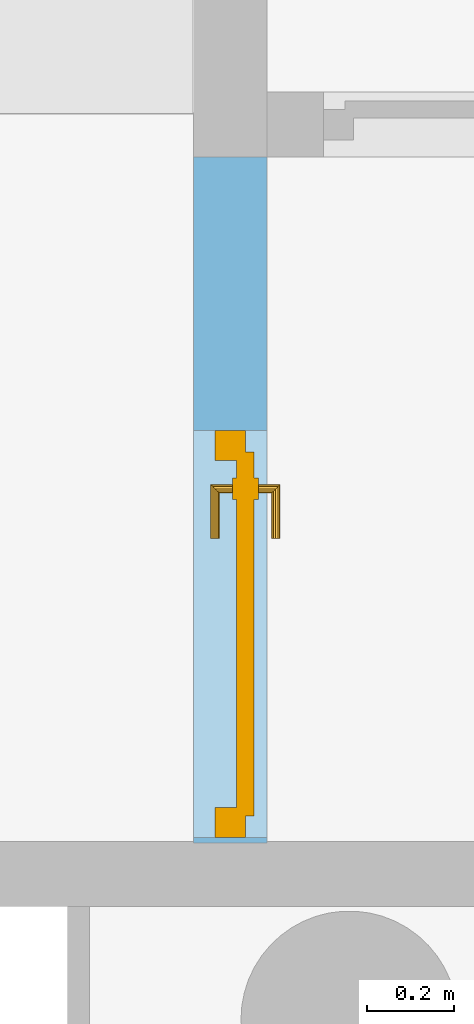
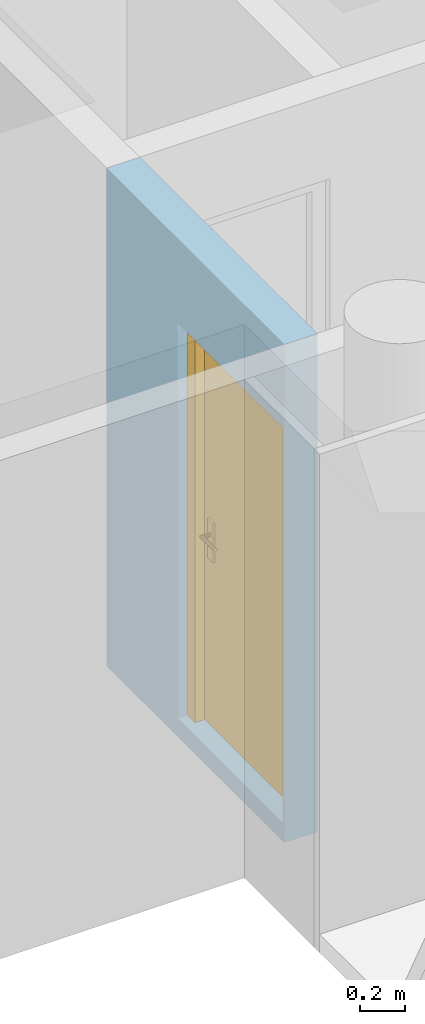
"""IFC4 building model written with IfcOpenShell, lengths in metres."""

from ifc_helpers import new_model, entity, si_unit, converted_unit, derived_unit, frame, frame_2d, origin, origin_with_axes, place, context, subcontext, project, spatial, polyline, rectangle, outline, extrude, faceted_brep, source, transform, mapped, material, layer, layer_set, layer_usage, element, fill, save


model = new_model("IFC4")

# Units and contexts
model_context = context("Model", 3, precision=1e-05, world=origin())
body_context = subcontext(model_context, "Body", "Model", "MODEL_VIEW")
ifc_project = project(units=[si_unit("LENGTHUNIT", "METRE"), si_unit("AREAUNIT", "SQUARE_METRE"), si_unit("VOLUMEUNIT", "CUBIC_METRE"), si_unit("MASSUNIT", "GRAM", prefix="KILO"), converted_unit("PLANEANGLEUNIT", "DEGREE", entity("IfcPlaneAngleMeasure", 0.0174532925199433), si_unit("PLANEANGLEUNIT", "RADIAN"), dimensions=[0, 0, 0, 0, 0, 0, 0]), derived_unit("THERMALTRANSMITTANCEUNIT", [(si_unit("POWERUNIT", "WATT"), 1), (si_unit("THERMODYNAMICTEMPERATUREUNIT", "KELVIN"), -1), (si_unit("LENGTHUNIT", "METRE"), -2)]), derived_unit("VOLUMETRICFLOWRATEUNIT", [(si_unit("LENGTHUNIT", "METRE"), 3), (converted_unit("TIMEUNIT", "hour", entity("IfcTimeMeasure", 3600.0), si_unit("TIMEUNIT", "SECOND"), dimensions=[0, 0, 1, 0, 0, 0, 0]), -1), (si_unit("LENGTHUNIT", "METRE"), -1)])], contexts=[model_context])

# Building, storeys
building_placement = place(None, origin())
building = spatial("IfcBuilding", under=ifc_project, at=building_placement, Name="HABITATGE PLURIFAMILIAR", CompositionType="ELEMENT")
storey_1_placement = place(building_placement, frame((0.0, 0.0, 6.25)))
storey_1 = spatial("IfcBuildingStorey", under=building, at=storey_1_placement, Name="PLANTA PRIMERA", CompositionType="ELEMENT", Elevation=6.25)
storey_2_placement = place(storey_1_placement, frame((0.0, 0.0, 3.35)))
storey_2 = spatial("IfcBuildingStorey", under=storey_1, at=storey_2_placement, Name="NOU", CompositionType="PARTIAL")

# Wall, opening, door
ifc_material = material()
ifc_layer = layer(ifc_material, 0.17)
ifc_layer_set = layer_set([ifc_layer])
ifc_layer_usage = layer_usage(ifc_layer_set, "AXIS2", "POSITIVE", 0.0)
wall_placement = place(storey_2_placement, frame((415.776984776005, 25.8894598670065, -3.45), z_axis=(0.0, 0.0, 1.0), x_axis=(0.0, -1.0, 0.0)))
wall = element("IfcWall", 1, at=wall_placement, inside=storey_2, material=ifc_layer_usage, Name="Envans P1", context=body_context, shape_type="SweptSolid", body=[
    extrude(rectangle(XDim=1.58255692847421, YDim=0.17, at=frame_2d((0.791278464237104, 0.085), x_axis=(1.0, 0.0))), origin_with_axes(), (0.0, 0.0, 1.0), 2.71),
])
opening_placement = place(wall_placement, frame((1.57066937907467, 0.17, 0.1), z_axis=(0.0, -1.0, 0.0), x_axis=(0.0, 0.0, 1.0)))
opening = element("IfcOpeningElement", 2, at=opening_placement, cuts=wall, Name="Vano de puerta P1", ObjectType="Opening", context=body_context, shape_type="SweptSolid", body=[
    extrude(outline(polyline([(2.15, 0.94), (2.15, 0.0), (0.0, 0.0), (0.0, 0.94), (2.15, 0.94)])), origin_with_axes(), (0.0, 0.0, 1.0), 0.17),
])
shared_shape = source(origin_with_axes(), body_context, "Body", "Brep", [
    faceted_brep([(0.0, 0.0699999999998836, 2.15), (0.0, 0.0699999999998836, 0.0), (0.0700000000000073, 0.0699999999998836, 0.0), (0.0700000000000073, 0.0699999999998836, 2.15), (0.0, 0.0, 0.0), (0.0, 0.0, 2.15), (0.0700000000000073, 0.0, 2.15), (0.0700000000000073, 0.0, 0.0)], [[[0, 1, 2, 3]], [[4, 5, 6, 7]], [[1, 0, 5, 4]], [[2, 1, 4, 7]], [[3, 2, 7, 6]], [[0, 3, 6, 5]]], orient=[[False], [False], [False], [False], [False], [False]]),
    faceted_brep([(0.870000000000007, 0.0699999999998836, 2.15), (0.870000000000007, 0.0699999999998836, 0.0), (0.940000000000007, 0.0699999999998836, 0.0), (0.940000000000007, 0.0699999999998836, 2.15), (0.870000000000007, 0.0, 0.0), (0.870000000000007, 0.0, 2.15), (0.940000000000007, 0.0, 2.15), (0.940000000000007, 0.0, 0.0)], [[[0, 1, 2, 3]], [[4, 5, 6, 7]], [[1, 0, 5, 4]], [[2, 1, 4, 7]], [[3, 2, 7, 6]], [[0, 3, 6, 5]]], orient=[[False], [False], [False], [False], [False], [False]]),
    faceted_brep([(0.0700000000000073, 0.0699999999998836, 2.15), (0.0700000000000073, 0.0699999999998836, 2.08), (0.870000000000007, 0.0699999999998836, 2.08), (0.870000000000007, 0.0699999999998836, 2.15), (0.0700000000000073, 0.0, 2.08), (0.0700000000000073, 0.0, 2.15), (0.870000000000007, 0.0, 2.15), (0.870000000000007, 0.0, 2.08)], [[[0, 1, 2, 3]], [[4, 5, 6, 7]], [[1, 0, 5, 4]], [[2, 1, 4, 7]], [[3, 2, 7, 6]], [[0, 3, 6, 5]]], orient=[[False], [False], [False], [False], [False], [False]]),
    faceted_brep([(0.0500000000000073, 0.0899999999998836, 2.1), (0.0500000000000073, 0.0899999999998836, 0.0), (0.890000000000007, 0.0899999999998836, 0.0), (0.890000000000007, 0.0899999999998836, 2.1), (0.0500000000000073, 0.0499999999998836, 0.0), (0.0500000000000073, 0.0499999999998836, 2.1), (0.890000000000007, 0.0499999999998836, 2.1), (0.890000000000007, 0.0499999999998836, 0.0)], [[[0, 1, 2, 3]], [[4, 5, 6, 7]], [[1, 0, 5, 4]], [[2, 1, 4, 7]], [[3, 2, 7, 6]], [[0, 3, 6, 5]]], orient=[[False], [False], [False], [False], [False], [False]]),
    faceted_brep([(0.110000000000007, 0.0499999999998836, 1.125), (0.110000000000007, 0.0499999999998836, 0.91), (0.160000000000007, 0.0499999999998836, 0.91), (0.160000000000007, 0.0499999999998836, 1.125), (0.110000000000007, 0.0399999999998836, 0.91), (0.110000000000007, 0.0399999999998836, 1.125), (0.160000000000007, 0.0399999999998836, 1.125), (0.160000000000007, 0.0399999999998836, 0.91)], [[[0, 1, 2, 3]], [[4, 5, 6, 7]], [[1, 0, 5, 4]], [[2, 1, 4, 7]], [[3, 2, 7, 6]], [[0, 3, 6, 5]]], orient=[[False], [False], [False], [False], [False], [False]]),
    faceted_brep([(0.135000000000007, 0.0399999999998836, 1.06), (0.130000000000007, 0.0399999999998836, 1.05866025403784), (0.126339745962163, 0.0399999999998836, 1.055), (0.125000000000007, 0.0399999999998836, 1.05), (0.126339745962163, 0.0399999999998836, 1.045), (0.130000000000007, 0.0399999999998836, 1.04133974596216), (0.135000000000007, 0.0399999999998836, 1.04), (0.140000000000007, 0.0399999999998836, 1.04133974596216), (0.143660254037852, 0.0399999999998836, 1.045), (0.145000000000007, 0.0399999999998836, 1.05), (0.143660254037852, 0.0399999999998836, 1.055), (0.140000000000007, 0.0399999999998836, 1.05866025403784), (0.135000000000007, 0.0, 1.06), (0.130000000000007, -0.00500000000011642, 1.05866025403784), (0.126339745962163, -0.00866025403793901, 1.055), (0.125000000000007, -0.0100000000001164, 1.05), (0.126339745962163, -0.00866025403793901, 1.045), (0.130000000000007, -0.00500000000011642, 1.04133974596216), (0.135000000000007, 0.0, 1.04), (0.140000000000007, 0.00499999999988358, 1.04133974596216), (0.143660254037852, 0.00866025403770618, 1.045), (0.145000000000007, 0.00999999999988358, 1.05), (0.143660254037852, 0.00866025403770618, 1.055), (0.140000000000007, 0.00499999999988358, 1.05866025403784), (0.250000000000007, 0.0, 1.06), (0.250000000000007, 0.00499999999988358, 1.05866025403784), (0.250000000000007, 0.00866025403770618, 1.055), (0.250000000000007, 0.00999999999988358, 1.05), (0.250000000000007, 0.00866025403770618, 1.045), (0.250000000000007, 0.00499999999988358, 1.04133974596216), (0.250000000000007, 0.0, 1.04), (0.250000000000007, -0.00500000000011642, 1.04133974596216), (0.250000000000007, -0.00866025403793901, 1.045), (0.250000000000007, -0.0100000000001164, 1.05), (0.250000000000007, -0.00866025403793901, 1.055), (0.250000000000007, -0.00500000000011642, 1.05866025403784)], [[[0, 1, 2, 3, 4, 5, 6, 7, 8, 9, 10, 11]], [[0, 12, 13, 1]], [[1, 13, 14, 2]], [[2, 14, 15, 3]], [[3, 15, 16, 4]], [[4, 16, 17, 5]], [[5, 17, 18, 6]], [[6, 18, 19, 7]], [[7, 19, 20, 8]], [[8, 20, 21, 9]], [[9, 21, 22, 10]], [[10, 22, 23, 11]], [[11, 23, 12, 0]], [[24, 25, 26, 27, 28, 29, 30, 31, 32, 33, 34, 35]], [[12, 24, 35, 13]], [[13, 35, 34, 14]], [[14, 34, 33, 15]], [[15, 33, 32, 16]], [[16, 32, 31, 17]], [[17, 31, 30, 18]], [[18, 30, 29, 19]], [[19, 29, 28, 20]], [[20, 28, 27, 21]], [[21, 27, 26, 22]], [[22, 26, 25, 23]], [[23, 25, 24, 12]]], orient=[[False], [False], [False], [False], [False], [False], [False], [False], [False], [False], [False], [False], [False], [False], [False], [False], [False], [False], [False], [False], [False], [False], [False], [False], [False], [False]]),
    faceted_brep([(0.110000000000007, 0.0899999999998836, 1.125), (0.160000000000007, 0.0899999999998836, 1.125), (0.160000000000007, 0.0899999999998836, 0.91), (0.110000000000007, 0.0899999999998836, 0.91), (0.110000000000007, 0.0999999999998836, 0.91), (0.160000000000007, 0.0999999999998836, 0.91), (0.160000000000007, 0.0999999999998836, 1.125), (0.110000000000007, 0.0999999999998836, 1.125)], [[[0, 1, 2, 3]], [[4, 5, 6, 7]], [[3, 4, 7, 0]], [[2, 5, 4, 3]], [[1, 6, 5, 2]], [[0, 7, 6, 1]]], orient=[[False], [False], [False], [False], [False], [False]]),
    faceted_brep([(0.135000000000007, 0.0999999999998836, 1.06), (0.140000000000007, 0.0999999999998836, 1.05866025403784), (0.143660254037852, 0.0999999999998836, 1.055), (0.145000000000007, 0.0999999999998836, 1.05), (0.143660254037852, 0.0999999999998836, 1.045), (0.140000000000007, 0.0999999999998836, 1.04133974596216), (0.135000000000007, 0.0999999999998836, 1.04), (0.130000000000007, 0.0999999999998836, 1.04133974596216), (0.126339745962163, 0.0999999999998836, 1.045), (0.125000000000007, 0.0999999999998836, 1.05), (0.126339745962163, 0.0999999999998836, 1.055), (0.130000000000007, 0.0999999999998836, 1.05866025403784), (0.130000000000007, 0.144999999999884, 1.05866025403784), (0.135000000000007, 0.139999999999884, 1.06), (0.126339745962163, 0.148660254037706, 1.055), (0.125000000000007, 0.149999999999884, 1.05), (0.126339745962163, 0.148660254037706, 1.045), (0.130000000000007, 0.144999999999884, 1.04133974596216), (0.135000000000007, 0.139999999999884, 1.04), (0.140000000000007, 0.134999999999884, 1.04133974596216), (0.143660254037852, 0.131339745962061, 1.045), (0.145000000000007, 0.129999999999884, 1.05), (0.143660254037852, 0.131339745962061, 1.055), (0.140000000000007, 0.134999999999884, 1.05866025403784), (0.250000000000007, 0.139999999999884, 1.06), (0.250000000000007, 0.144999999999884, 1.05866025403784), (0.250000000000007, 0.148660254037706, 1.055), (0.250000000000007, 0.149999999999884, 1.05), (0.250000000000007, 0.148660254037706, 1.045), (0.250000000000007, 0.144999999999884, 1.04133974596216), (0.250000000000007, 0.139999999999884, 1.04), (0.250000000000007, 0.134999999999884, 1.04133974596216), (0.250000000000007, 0.131339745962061, 1.045), (0.250000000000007, 0.129999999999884, 1.05), (0.250000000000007, 0.131339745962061, 1.055), (0.250000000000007, 0.134999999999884, 1.05866025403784)], [[[0, 1, 2, 3, 4, 5, 6, 7, 8, 9, 10, 11]], [[0, 11, 12, 13]], [[11, 10, 14, 12]], [[10, 9, 15, 14]], [[9, 8, 16, 15]], [[8, 7, 17, 16]], [[7, 6, 18, 17]], [[6, 5, 19, 18]], [[5, 4, 20, 19]], [[4, 3, 21, 20]], [[3, 2, 22, 21]], [[2, 1, 23, 22]], [[1, 0, 13, 23]], [[24, 25, 26, 27, 28, 29, 30, 31, 32, 33, 34, 35]], [[13, 12, 25, 24]], [[12, 14, 26, 25]], [[14, 15, 27, 26]], [[15, 16, 28, 27]], [[16, 17, 29, 28]], [[17, 18, 30, 29]], [[18, 19, 31, 30]], [[19, 20, 32, 31]], [[20, 21, 33, 32]], [[21, 22, 34, 33]], [[22, 23, 35, 34]], [[23, 13, 24, 35]]], orient=[[False], [False], [False], [False], [False], [False], [False], [False], [False], [False], [False], [False], [False], [False], [False], [False], [False], [False], [False], [False], [False], [False], [False], [False], [False], [False]]),
])
door_placement = place(opening_placement, frame((0.0, 0.94, 0.12), z_axis=(1.0, 0.0, 0.0), x_axis=(0.0, -1.0, 0.0)))
door = element("IfcDoor", 3, at=door_placement, inside=storey_2, Name="Porta P1", OperationType="USERDEFINED", OverallHeight=2.15, OverallWidth=0.94, PredefinedType="DOOR", context=body_context, shape_type="MappedRepresentation", body=[
    mapped(shared_shape, transform((0.0, 0.0, 0.0), x_axis=(1.0, 0.0, 0.0), y_axis=(0.0, 1.0, 0.0), z_axis=(0.0, 0.0, 1.0), scale=1.0)),
])
fill(opening, door)

save(model, "model.ifc")
